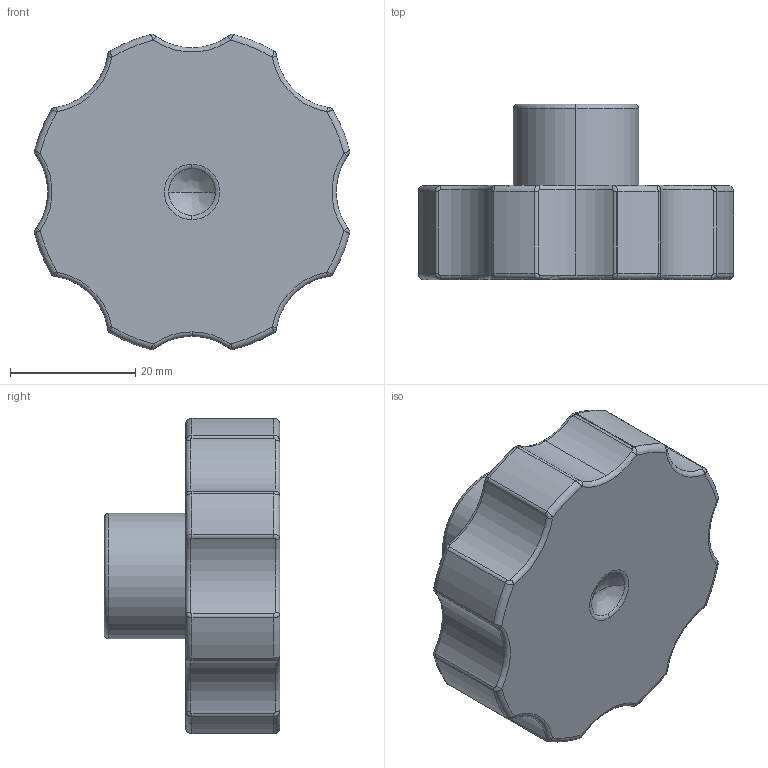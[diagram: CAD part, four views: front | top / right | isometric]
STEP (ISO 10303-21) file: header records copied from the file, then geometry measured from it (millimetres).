
FILE_DESCRIPTION (( 'STEP AP214' ), '1' );
FILE_NAME ('D50M8.STEP', '2020-08-05T09:27:38', ( '' ), ( '' ), 'SwSTEP 2.0', 'SolidWorks 2018', '' );
FILE_SCHEMA (( 'AUTOMOTIVE_DESIGN' ));
Length unit declared in the file: millimetre
Products named in the file (1): D50M8
Bounding box: 50.33 x 28 x 50.33 mm (x, y, z)
Volume: 18082.8 mm3; surface area: 10238.9 mm2
Topology: 1 solids, 1 shells, 128 faces, 292 edges, 170 vertices
Faces by surface type: cylinder 45, torus 42, bspline 34, plane 7
Entity records: 4633 total; most frequent: CARTESIAN_POINT 1863, DIRECTION 593, ORIENTED_EDGE 580, EDGE_CURVE 290, AXIS2_PLACEMENT_3D 274, CIRCLE 179, VERTEX_POINT 170, EDGE_LOOP 134
